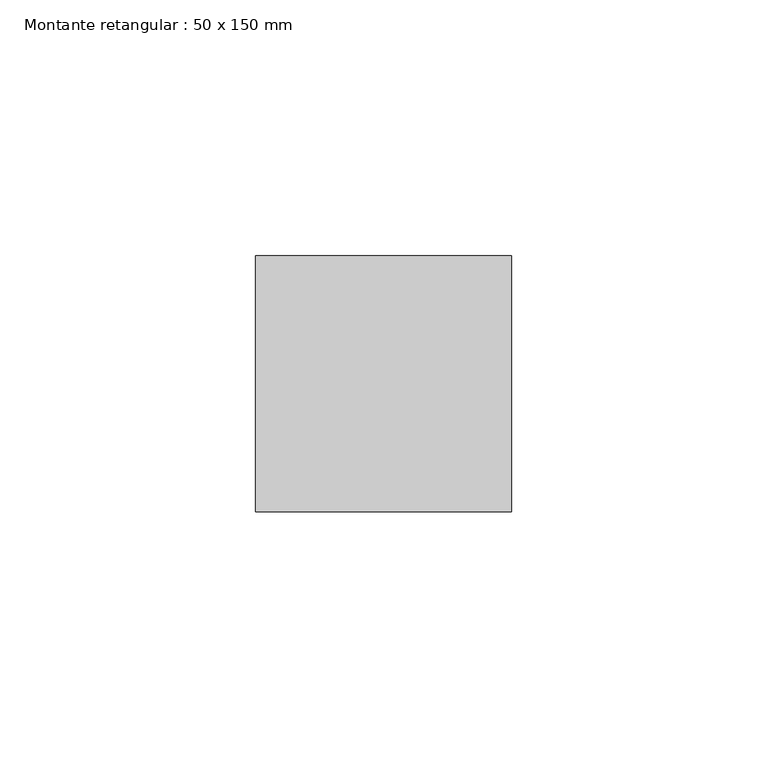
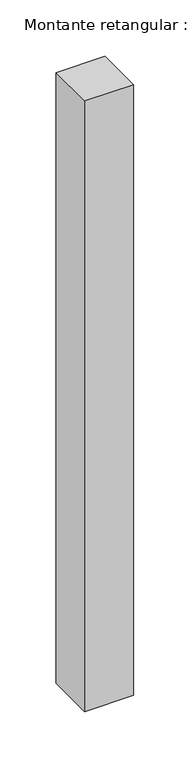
"""IFC4 building model written with IfcOpenShell, lengths in millimetres: member geometry, Montante retangular : 50 x 150 mm."""

import ifcopenshell
import ifcopenshell.guid

model = None  # the IFC model being written
_history = None  # IfcOwnerHistory: only IFC2X3 demands one
_inside = {}  # id of a spatial element -> (the spatial element, [elements in it])
_under = {}  # id of a project, library or spatial element -> (it, [spatial elements below it])
_declared = {}  # id of a project -> (the project, [libraries it declares])
_typed = {}  # id of a type object -> (the type object, [elements of that type])
_made_of = {}  # id of a material, layer set ... -> (it, [elements and type objects made of it])


def new_model(schema):
    """Start an empty IFC model of exactly this schema.

    Asked for "IFC4X3", IfcOpenShell would pick the latest addendum, in which some entities
    have other attributes; the version numbers below select the first issue.
    IFC2X3 requires an IfcOwnerHistory on every rooted entity: one is made here for all.
    """
    global model, _history
    if schema == "IFC4X3":
        model = ifcopenshell.file(schema_version=(4, 3, 0, 0))
    else:
        model = ifcopenshell.file(schema=schema)
    _inside.clear()
    _under.clear()
    _declared.clear()
    _typed.clear()
    _made_of.clear()
    _history = None
    if model.schema == "IFC2X3":
        org = make("IfcOrganization", Name="unknown")
        user = make(
            "IfcPersonAndOrganization",
            ThePerson=make("IfcPerson", FamilyName="unknown"),
            TheOrganization=org,
        )
        app = make(
            "IfcApplication",
            ApplicationDeveloper=org,
            Version="unknown",
            ApplicationFullName="unknown",
            ApplicationIdentifier="unknown",
        )
        _history = make(
            "IfcOwnerHistory",
            OwningUser=user,
            OwningApplication=app,
            ChangeAction="ADDED",
            CreationDate=0,
        )
    return model


def make(cls, **values):
    """One entity of the class cls with the attributes given. An attribute that is None is left unset."""
    return model.create_entity(
        cls, **{name: value for name, value in values.items() if value is not None}
    )


def rooted(cls, **values):
    """An entity with a GlobalId (a new one), such as an element, a storey or a relation."""
    return make(cls, GlobalId=ifcopenshell.guid.new(), OwnerHistory=_history, **values)


def si_unit(unit_type, name, prefix=None):
    """IfcSIUnit, for example si_unit("LENGTHUNIT", "METRE", prefix="MILLI")."""
    return make("IfcSIUnit", UnitType=unit_type, Prefix=prefix, Name=name)


def assignment(units):
    """IfcUnitAssignment: the units of a project."""
    return None if units is None else make("IfcUnitAssignment", Units=units)


def point(xyz):
    """IfcCartesianPoint."""
    return None if xyz is None else make("IfcCartesianPoint", Coordinates=xyz)


def direction(xyz):
    """IfcDirection."""
    return None if xyz is None else make("IfcDirection", DirectionRatios=xyz)


def frame(location, z_axis=None, x_axis=None):
    """IfcAxis2Placement3D, a coordinate frame: its origin and axes. An axis left out is left unset."""
    return make(
        "IfcAxis2Placement3D",
        Location=point(location),
        Axis=direction(z_axis),
        RefDirection=direction(x_axis),
    )


def origin():
    """The frame at (0, 0, 0) with its axes left unset."""
    return frame((0.0, 0.0, 0.0))


def place(relative_to, where):
    """IfcLocalPlacement: puts the frame where relative to a parent placement (None: the world)."""
    return make(
        "IfcLocalPlacement", PlacementRelTo=relative_to, RelativePlacement=where
    )


def context(
    kind, dimensions, precision=None, world=None, true_north=None, identifier=None
):
    """IfcGeometricRepresentationContext, for example the 3D "Model" context."""
    return make(
        "IfcGeometricRepresentationContext",
        ContextIdentifier=identifier,
        ContextType=kind,
        CoordinateSpaceDimension=dimensions,
        Precision=precision,
        WorldCoordinateSystem=world,
        TrueNorth=true_north,
    )


def project(units=None, contexts=None):
    """IfcProject with its units and contexts."""
    return rooted(
        "IfcProject",
        Name="project",
        RepresentationContexts=contexts,
        UnitsInContext=assignment(units),
    )


def spatial(cls, under=None, at=None, **own):
    """A site, building, storey or space (cls), placed at a placement, below another one or the project."""
    s = rooted(cls, ObjectPlacement=at, **own)
    if under is not None:
        _under.setdefault(under.id(), (under, []))[1].append(s)
    return s


def polyline(points):
    """IfcPolyline through the points."""
    return make("IfcPolyline", Points=[point(p) for p in points])


def outline(outer, holes=None, kind="AREA"):
    """IfcArbitraryClosedProfileDef: a profile drawn as a closed curve; with holes, ...WithVoids."""
    if holes is None:
        return make("IfcArbitraryClosedProfileDef", ProfileType=kind, OuterCurve=outer)
    return make(
        "IfcArbitraryProfileDefWithVoids",
        ProfileType=kind,
        OuterCurve=outer,
        InnerCurves=holes,
    )


def extrude(swept, where, along, depth):
    """IfcExtrudedAreaSolid: the profile swept, set in the frame where, extruded along a direction by depth."""
    return make(
        "IfcExtrudedAreaSolid",
        SweptArea=swept,
        Position=where,
        ExtrudedDirection=direction(along),
        Depth=depth,
    )


def shape(context_of_items, identifier, shape_type, items):
    """IfcShapeRepresentation: the items that make up one representation, for example the "Body"."""
    return make(
        "IfcShapeRepresentation",
        ContextOfItems=context_of_items,
        RepresentationIdentifier=identifier,
        RepresentationType=shape_type,
        Items=items,
    )


def source(mapping_origin, context_of_items, identifier, shape_type, items):
    """IfcRepresentationMap: a shape defined once, which mapped items show again and again."""
    return make(
        "IfcRepresentationMap",
        MappingOrigin=mapping_origin,
        MappedRepresentation=shape(context_of_items, identifier, shape_type, items),
    )


def transform(
    local_origin,
    x_axis=None,
    y_axis=None,
    z_axis=None,
    scale=None,
    scale2=None,
    scale3=None,
    uniform=True,
):
    """IfcCartesianTransformationOperator3D, or its non-uniform kind. x_axis, y_axis, z_axis: its Axis1, 2, 3."""
    if uniform:
        return make(
            "IfcCartesianTransformationOperator3D",
            Axis1=direction(x_axis),
            Axis2=direction(y_axis),
            LocalOrigin=point(local_origin),
            Scale=scale,
            Axis3=direction(z_axis),
        )
    return make(
        "IfcCartesianTransformationOperator3DnonUniform",
        Axis1=direction(x_axis),
        Axis2=direction(y_axis),
        LocalOrigin=point(local_origin),
        Scale=scale,
        Axis3=direction(z_axis),
        Scale2=scale2,
        Scale3=scale3,
    )


def mapped(mapping_source, mapping_target):
    """IfcMappedItem: shows the shape of a source again, moved by a transform."""
    return make(
        "IfcMappedItem", MappingSource=mapping_source, MappingTarget=mapping_target
    )


def made_of(thing, what):
    """Note that an element or type object is made of a material, layer set ...; save() writes the relation."""
    if what is not None:
        _made_of.setdefault(what.id(), (what, []))[1].append(thing)
    return thing


def element(
    cls,
    number,
    at=None,
    inside=None,
    cuts=None,
    type_object=None,
    material=None,
    context=None,
    identifier="Body",
    shape_type=None,
    held_by="IfcProductDefinitionShape",
    body=None,
    shapes=None,
    **own,
):
    """One element of the class cls, such as IfcWall. Its Tag is "e" and its number.

    at: its placement. inside: the storey or other place that contains it. cuts: it is an
    opening in that element (IfcRelVoidsElement). A single representation is given by context,
    identifier, shape_type and body (its items); several are given by shapes. held_by: the class
    of the entity that holds the representations. save() writes the other relations.
    """
    e = rooted(cls, Tag="e%d" % number, ObjectPlacement=at, **own)
    if body is not None:
        shapes = [shape(context, identifier, shape_type, body)]
    if shapes is not None:
        e.Representation = make(held_by, Representations=shapes)
    if inside is not None:
        _inside.setdefault(inside.id(), (inside, []))[1].append(e)
    if cuts is not None:
        rooted(
            "IfcRelVoidsElement", RelatingBuildingElement=cuts, RelatedOpeningElement=e
        )
    if type_object is not None:
        _typed.setdefault(type_object.id(), (type_object, []))[1].append(e)
    return made_of(e, material)


def aggregate(whole, parts):
    """IfcRelAggregates: a whole, such as a stair, and the parts it consists of."""
    return rooted("IfcRelAggregates", RelatingObject=whole, RelatedObjects=parts)


def save(model, path):
    """Write the relations noted so far, then the file.

    IfcRelAggregates (storeys below a building ...), IfcRelContainedInSpatialStructure (elements
    in a storey), IfcRelDefinesByType, IfcRelAssociatesMaterial and IfcRelDeclares: one each for
    every whole, place, type object, material and project.
    """
    for whole, parts in _under.values():
        aggregate(whole, parts)
    for where, things in _inside.values():
        rooted(
            "IfcRelContainedInSpatialStructure",
            RelatedElements=things,
            RelatingStructure=where,
        )
    for kind, things in _typed.values():
        rooted("IfcRelDefinesByType", RelatedObjects=things, RelatingType=kind)
    for what, things in _made_of.values():
        rooted("IfcRelAssociatesMaterial", RelatedObjects=things, RelatingMaterial=what)
    for by, libraries in _declared.values():
        rooted("IfcRelDeclares", RelatingContext=by, RelatedDefinitions=libraries)
    model.write(path)


def montante_retangular_50_x_150_mm_e0c08740(model_context):
    return source(origin(), model_context, "Body", "SweptSolid", [
        extrude(outline(polyline([(25.0, 25.0), (25.0, -25.0), (-25.0, -25.0), (-25.0, 25.0), (25.0, 25.0)])), frame((0.0, 0.0, -660.05), z_axis=(0.0, 0.0, 1.0), x_axis=(1.0, 0.0, 0.0)), (0.0, 0.0, 1.0), 660.05),
    ])


if __name__ == "__main__":
    model = new_model("IFC4")
    model_context = context("Model", 3, world=origin())
    ifc_project = project(units=[si_unit("LENGTHUNIT", "METRE", prefix="MILLI")], contexts=[model_context])
    site = spatial("IfcSite", under=ifc_project)
    building = spatial("IfcBuilding", under=site)
    placement = place(None, origin())
    montante_retangular_50_x_150_mm_shape = montante_retangular_50_x_150_mm_e0c08740(model_context)
    element("IfcMember", 1, ObjectType="Montante retangular : 50 x 150 mm", at=placement, inside=building, context=model_context, shape_type="MappedRepresentation", body=[
        mapped(montante_retangular_50_x_150_mm_shape, transform((0.0, 0.0, 0.0), x_axis=(1.0, 0.0, 0.0), y_axis=(0.0, 1.0, 0.0), z_axis=(0.0, 0.0, 1.0))),
    ])
    save(model, "model.ifc")
